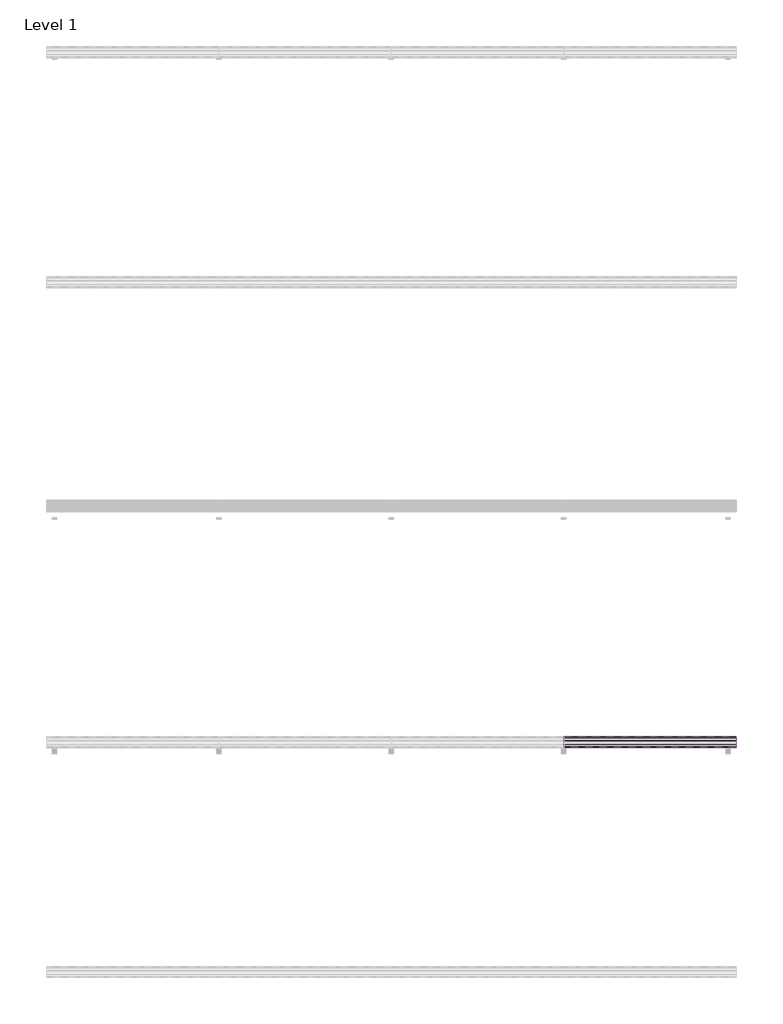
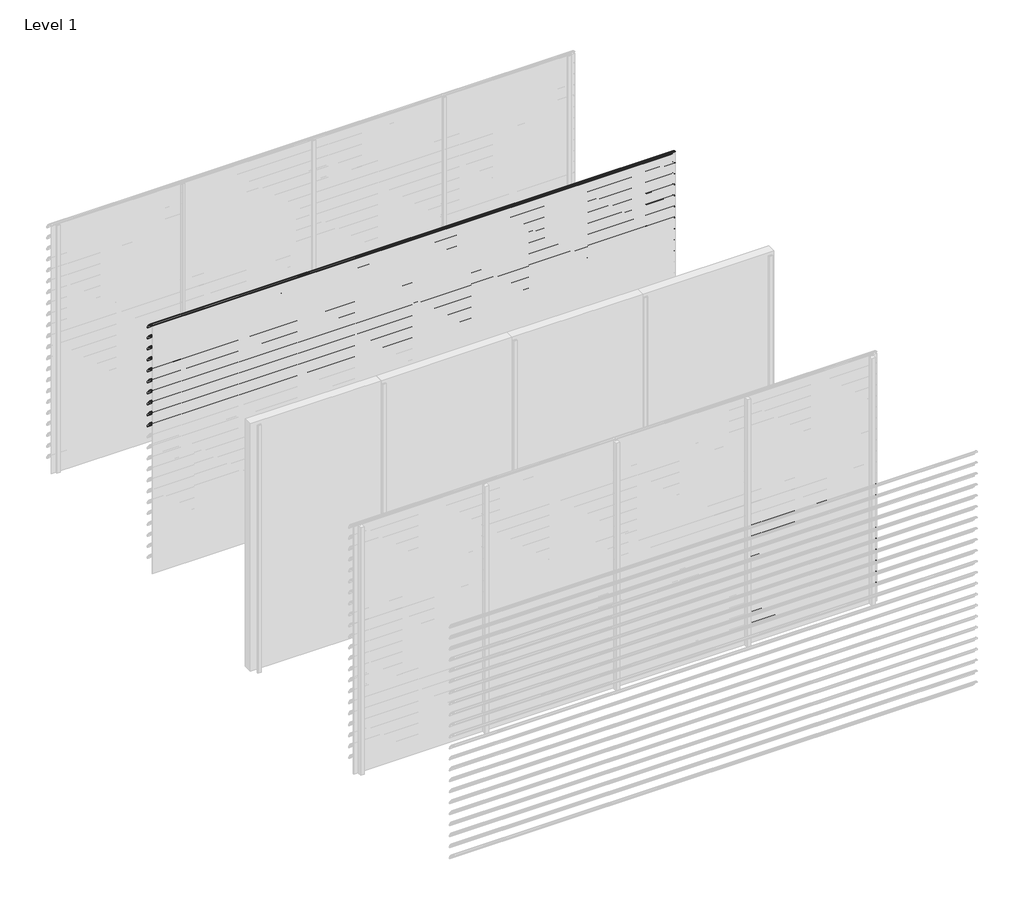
# One storey, part 30 of 57: 20 proxies.
"""IFC4 building model written with IfcOpenShell, lengths in millimetres."""

from ifc_helpers import new_model, si_unit, point, frame, frame_2d, origin, place, context, project, spatial, polyline, circle_curve, trimmed, segment, composite_curve, outline, extrude, element, save

model = new_model("IFC4")

# Units and contexts
model_context = context("Model", 3, world=origin())
ifc_project = project(units=[si_unit("LENGTHUNIT", "METRE", prefix="MILLI")], contexts=[model_context])

# Site, building, storey
site = spatial("IfcSite", under=ifc_project)
building = spatial("IfcBuilding", under=site)
storey = spatial("IfcBuildingStorey", under=building, Name="Level 1", Elevation=0.0)

# Proxies
placement = place(None, origin())
element("IfcBuildingElementProxy", 1, Name="Wall Sweeps", at=placement, inside=storey, context=model_context, shape_type="SweptSolid", body=[
    extrude(outline(composite_curve([segment(trimmed(circle_curve(frame_2d((-25993.7822526, 3016.4913792)), 4.2177474), [point((-25989.6985606, 3017.5462976))], [point((-25993.7822526, 3020.7091266))], False, "CARTESIAN"), True, "CONTINUOUS"), segment(trimmed(circle_curve(frame_2d((-26018.7150834, 2918.2536312)), 105.4456002), [point((-25993.7822526, 3020.7091266))], [point((-25971.7914298, 3012.6832099))], False, "CARTESIAN"), True, "CONTINUOUS"), segment(trimmed(circle_curve(frame_2d((-26061.7199745, 2864.0352476)), 173.7335887), [point((-25971.7914298, 3012.6832099))], [point((-25913.0720121, 2953.9637922))], False, "CARTESIAN"), True, "CONTINUOUS"), segment(trimmed(circle_curve(frame_2d((-26004.9297178, 2902.1860314)), 105.4456002), [point((-25913.0720121, 2953.9637922))], [point((-25903.6249616, 2931.4455765))], False, "CARTESIAN"), True, "CONTINUOUS"), segment(trimmed(circle_curve(frame_2d((-25907.809737, 2930.3307305)), 4.3307305), [point((-25903.6249616, 2931.4455765))], [point((-25909.0769196, 2926.189538))], False, "CARTESIAN"), True, "CONTINUOUS"), segment(polyline([(-25909.0769196, 2926.189538), (-25934.7401984, 2950.9722783)]), True, "CONTINUOUS"), segment(trimmed(circle_curve(frame_2d((-25931.3879574, 2953.2977626)), 4.079877), [point((-25934.7401984, 2950.9722783))], [point((-25930.7310597, 2957.3244091))], False, "CARTESIAN"), True, "CONTINUOUS"), segment(trimmed(circle_curve(frame_2d((-26014.6665585, 2935.2544323)), 86.7885467), [point((-25930.7310597, 2957.3244091))], [point((-25942.3028351, 2983.1683485))], True, "CARTESIAN"), True, "CONTINUOUS"), segment(polyline([(-25942.3028351, 2983.1683485), (-25940.7230099, 2985.9046861)]), True, "CONTINUOUS"), segment(trimmed(circle_curve(frame_2d((-26061.7199745, 2864.0352476)), 171.7335887), [point((-25940.7230099, 2985.9046861))], [point((-25972.7555872, 3010.9289618))], True, "CARTESIAN"), True, "CONTINUOUS"), segment(trimmed(circle_curve(frame_2d((-26018.7150834, 2918.2536312)), 103.4456002), [point((-25972.7555872, 3010.9289618))], [point((-25989.6985606, 3017.5462976))], True, "CARTESIAN"), True, "CONTINUOUS")], self_intersect=False)), frame((0.0, 0.0, 0.0), z_axis=(1.0, 0.0, 0.0), x_axis=(0.0, 1.0, 0.0)), (0.0, 0.0, 1.0), 6000.0),
])
element("IfcBuildingElementProxy", 2, Name="Wall Sweeps", at=placement, inside=storey, context=model_context, shape_type="SweptSolid", body=[
    extrude(outline(composite_curve([segment(trimmed(circle_curve(frame_2d((-25993.7822526, 2883.4913792)), 4.2177474), [point((-25989.6985606, 2884.5462976))], [point((-25993.7822526, 2887.7091266))], False, "CARTESIAN"), True, "CONTINUOUS"), segment(trimmed(circle_curve(frame_2d((-26018.7150834, 2785.2536312)), 105.4456002), [point((-25993.7822526, 2887.7091266))], [point((-25971.7914298, 2879.6832099))], False, "CARTESIAN"), True, "CONTINUOUS"), segment(trimmed(circle_curve(frame_2d((-26061.7199745, 2731.0352476)), 173.7335887), [point((-25971.7914298, 2879.6832099))], [point((-25913.0720121, 2820.9637922))], False, "CARTESIAN"), True, "CONTINUOUS"), segment(trimmed(circle_curve(frame_2d((-26004.9297178, 2769.1860314)), 105.4456002), [point((-25913.0720121, 2820.9637922))], [point((-25903.6249616, 2798.4455765))], False, "CARTESIAN"), True, "CONTINUOUS"), segment(trimmed(circle_curve(frame_2d((-25907.809737, 2797.3307305)), 4.3307305), [point((-25903.6249616, 2798.4455765))], [point((-25909.0769196, 2793.189538))], False, "CARTESIAN"), True, "CONTINUOUS"), segment(polyline([(-25909.0769196, 2793.189538), (-25934.7401984, 2817.9722783)]), True, "CONTINUOUS"), segment(trimmed(circle_curve(frame_2d((-25931.3879574, 2820.2977626)), 4.079877), [point((-25934.7401984, 2817.9722783))], [point((-25930.7310597, 2824.3244091))], False, "CARTESIAN"), True, "CONTINUOUS"), segment(trimmed(circle_curve(frame_2d((-26014.6665585, 2802.2544323)), 86.7885467), [point((-25930.7310597, 2824.3244091))], [point((-25942.3028351, 2850.1683485))], True, "CARTESIAN"), True, "CONTINUOUS"), segment(polyline([(-25942.3028351, 2850.1683485), (-25940.7230099, 2852.9046861)]), True, "CONTINUOUS"), segment(trimmed(circle_curve(frame_2d((-26061.7199745, 2731.0352476)), 171.7335887), [point((-25940.7230099, 2852.9046861))], [point((-25972.7555872, 2877.9289618))], True, "CARTESIAN"), True, "CONTINUOUS"), segment(trimmed(circle_curve(frame_2d((-26018.7150834, 2785.2536312)), 103.4456002), [point((-25972.7555872, 2877.9289618))], [point((-25989.6985606, 2884.5462976))], True, "CARTESIAN"), True, "CONTINUOUS")], self_intersect=False)), frame((0.0, 0.0, 0.0), z_axis=(1.0, 0.0, 0.0), x_axis=(0.0, 1.0, 0.0)), (0.0, 0.0, 1.0), 6000.0),
])
element("IfcBuildingElementProxy", 3, Name="Wall Sweeps", at=placement, inside=storey, context=model_context, shape_type="SweptSolid", body=[
    extrude(outline(composite_curve([segment(trimmed(circle_curve(frame_2d((-25993.7822526, 2750.4913792)), 4.2177474), [point((-25989.6985606, 2751.5462976))], [point((-25993.7822526, 2754.7091266))], False, "CARTESIAN"), True, "CONTINUOUS"), segment(trimmed(circle_curve(frame_2d((-26018.7150834, 2652.2536312)), 105.4456002), [point((-25993.7822526, 2754.7091266))], [point((-25971.7914298, 2746.6832099))], False, "CARTESIAN"), True, "CONTINUOUS"), segment(trimmed(circle_curve(frame_2d((-26061.7199745, 2598.0352476)), 173.7335887), [point((-25971.7914298, 2746.6832099))], [point((-25913.0720121, 2687.9637922))], False, "CARTESIAN"), True, "CONTINUOUS"), segment(trimmed(circle_curve(frame_2d((-26004.9297178, 2636.1860314)), 105.4456002), [point((-25913.0720121, 2687.9637922))], [point((-25903.6249616, 2665.4455765))], False, "CARTESIAN"), True, "CONTINUOUS"), segment(trimmed(circle_curve(frame_2d((-25907.809737, 2664.3307305)), 4.3307305), [point((-25903.6249616, 2665.4455765))], [point((-25909.0769196, 2660.189538))], False, "CARTESIAN"), True, "CONTINUOUS"), segment(polyline([(-25909.0769196, 2660.189538), (-25934.7401984, 2684.9722783)]), True, "CONTINUOUS"), segment(trimmed(circle_curve(frame_2d((-25931.3879574, 2687.2977626)), 4.079877), [point((-25934.7401984, 2684.9722783))], [point((-25930.7310597, 2691.3244091))], False, "CARTESIAN"), True, "CONTINUOUS"), segment(trimmed(circle_curve(frame_2d((-26014.6665585, 2669.2544323)), 86.7885467), [point((-25930.7310597, 2691.3244091))], [point((-25942.3028351, 2717.1683485))], True, "CARTESIAN"), True, "CONTINUOUS"), segment(polyline([(-25942.3028351, 2717.1683485), (-25940.7230099, 2719.9046861)]), True, "CONTINUOUS"), segment(trimmed(circle_curve(frame_2d((-26061.7199745, 2598.0352476)), 171.7335887), [point((-25940.7230099, 2719.9046861))], [point((-25972.7555872, 2744.9289618))], True, "CARTESIAN"), True, "CONTINUOUS"), segment(trimmed(circle_curve(frame_2d((-26018.7150834, 2652.2536312)), 103.4456002), [point((-25972.7555872, 2744.9289618))], [point((-25989.6985606, 2751.5462976))], True, "CARTESIAN"), True, "CONTINUOUS")], self_intersect=False)), frame((0.0, 0.0, 0.0), z_axis=(1.0, 0.0, 0.0), x_axis=(0.0, 1.0, 0.0)), (0.0, 0.0, 1.0), 6000.0),
])
element("IfcBuildingElementProxy", 4, Name="Wall Sweeps", at=placement, inside=storey, context=model_context, shape_type="SweptSolid", body=[
    extrude(outline(composite_curve([segment(trimmed(circle_curve(frame_2d((-25993.7822526, 2617.4913792)), 4.2177474), [point((-25989.6985606, 2618.5462976))], [point((-25993.7822526, 2621.7091266))], False, "CARTESIAN"), True, "CONTINUOUS"), segment(trimmed(circle_curve(frame_2d((-26018.7150834, 2519.2536312)), 105.4456002), [point((-25993.7822526, 2621.7091266))], [point((-25971.7914298, 2613.6832099))], False, "CARTESIAN"), True, "CONTINUOUS"), segment(trimmed(circle_curve(frame_2d((-26061.7199745, 2465.0352476)), 173.7335887), [point((-25971.7914298, 2613.6832099))], [point((-25913.0720121, 2554.9637922))], False, "CARTESIAN"), True, "CONTINUOUS"), segment(trimmed(circle_curve(frame_2d((-26004.9297178, 2503.1860314)), 105.4456002), [point((-25913.0720121, 2554.9637922))], [point((-25903.6249616, 2532.4455765))], False, "CARTESIAN"), True, "CONTINUOUS"), segment(trimmed(circle_curve(frame_2d((-25907.809737, 2531.3307305)), 4.3307305), [point((-25903.6249616, 2532.4455765))], [point((-25909.0769196, 2527.189538))], False, "CARTESIAN"), True, "CONTINUOUS"), segment(polyline([(-25909.0769196, 2527.189538), (-25934.7401984, 2551.9722783)]), True, "CONTINUOUS"), segment(trimmed(circle_curve(frame_2d((-25931.3879574, 2554.2977626)), 4.079877), [point((-25934.7401984, 2551.9722783))], [point((-25930.7310597, 2558.3244091))], False, "CARTESIAN"), True, "CONTINUOUS"), segment(trimmed(circle_curve(frame_2d((-26014.6665585, 2536.2544323)), 86.7885467), [point((-25930.7310597, 2558.3244091))], [point((-25942.3028351, 2584.1683485))], True, "CARTESIAN"), True, "CONTINUOUS"), segment(polyline([(-25942.3028351, 2584.1683485), (-25940.7230099, 2586.9046861)]), True, "CONTINUOUS"), segment(trimmed(circle_curve(frame_2d((-26061.7199745, 2465.0352476)), 171.7335887), [point((-25940.7230099, 2586.9046861))], [point((-25972.7555872, 2611.9289618))], True, "CARTESIAN"), True, "CONTINUOUS"), segment(trimmed(circle_curve(frame_2d((-26018.7150834, 2519.2536312)), 103.4456002), [point((-25972.7555872, 2611.9289618))], [point((-25989.6985606, 2618.5462976))], True, "CARTESIAN"), True, "CONTINUOUS")], self_intersect=False)), frame((0.0, 0.0, 0.0), z_axis=(1.0, 0.0, 0.0), x_axis=(0.0, 1.0, 0.0)), (0.0, 0.0, 1.0), 6000.0),
])
element("IfcBuildingElementProxy", 5, Name="Wall Sweeps", at=placement, inside=storey, context=model_context, shape_type="SweptSolid", body=[
    extrude(outline(composite_curve([segment(trimmed(circle_curve(frame_2d((-25993.7822526, 2484.4913792)), 4.2177474), [point((-25989.6985606, 2485.5462976))], [point((-25993.7822526, 2488.7091266))], False, "CARTESIAN"), True, "CONTINUOUS"), segment(trimmed(circle_curve(frame_2d((-26018.7150834, 2386.2536312)), 105.4456002), [point((-25993.7822526, 2488.7091266))], [point((-25971.7914298, 2480.6832099))], False, "CARTESIAN"), True, "CONTINUOUS"), segment(trimmed(circle_curve(frame_2d((-26061.7199745, 2332.0352476)), 173.7335887), [point((-25971.7914298, 2480.6832099))], [point((-25913.0720121, 2421.9637922))], False, "CARTESIAN"), True, "CONTINUOUS"), segment(trimmed(circle_curve(frame_2d((-26004.9297178, 2370.1860314)), 105.4456002), [point((-25913.0720121, 2421.9637922))], [point((-25903.6249616, 2399.4455765))], False, "CARTESIAN"), True, "CONTINUOUS"), segment(trimmed(circle_curve(frame_2d((-25907.809737, 2398.3307305)), 4.3307305), [point((-25903.6249616, 2399.4455765))], [point((-25909.0769196, 2394.189538))], False, "CARTESIAN"), True, "CONTINUOUS"), segment(polyline([(-25909.0769196, 2394.189538), (-25934.7401984, 2418.9722783)]), True, "CONTINUOUS"), segment(trimmed(circle_curve(frame_2d((-25931.3879574, 2421.2977626)), 4.079877), [point((-25934.7401984, 2418.9722783))], [point((-25930.7310597, 2425.3244091))], False, "CARTESIAN"), True, "CONTINUOUS"), segment(trimmed(circle_curve(frame_2d((-26014.6665585, 2403.2544323)), 86.7885467), [point((-25930.7310597, 2425.3244091))], [point((-25942.3028351, 2451.1683485))], True, "CARTESIAN"), True, "CONTINUOUS"), segment(polyline([(-25942.3028351, 2451.1683485), (-25940.7230099, 2453.9046861)]), True, "CONTINUOUS"), segment(trimmed(circle_curve(frame_2d((-26061.7199745, 2332.0352476)), 171.7335887), [point((-25940.7230099, 2453.9046861))], [point((-25972.7555872, 2478.9289618))], True, "CARTESIAN"), True, "CONTINUOUS"), segment(trimmed(circle_curve(frame_2d((-26018.7150834, 2386.2536312)), 103.4456002), [point((-25972.7555872, 2478.9289618))], [point((-25989.6985606, 2485.5462976))], True, "CARTESIAN"), True, "CONTINUOUS")], self_intersect=False)), frame((0.0, 0.0, 0.0), z_axis=(1.0, 0.0, 0.0), x_axis=(0.0, 1.0, 0.0)), (0.0, 0.0, 1.0), 6000.0),
])
element("IfcBuildingElementProxy", 6, Name="Wall Sweeps", at=placement, inside=storey, context=model_context, shape_type="SweptSolid", body=[
    extrude(outline(composite_curve([segment(trimmed(circle_curve(frame_2d((-25993.7822526, 2351.4913792)), 4.2177474), [point((-25989.6985606, 2352.5462976))], [point((-25993.7822526, 2355.7091266))], False, "CARTESIAN"), True, "CONTINUOUS"), segment(trimmed(circle_curve(frame_2d((-26018.7150834, 2253.2536312)), 105.4456002), [point((-25993.7822526, 2355.7091266))], [point((-25971.7914298, 2347.6832099))], False, "CARTESIAN"), True, "CONTINUOUS"), segment(trimmed(circle_curve(frame_2d((-26061.7199745, 2199.0352476)), 173.7335887), [point((-25971.7914298, 2347.6832099))], [point((-25913.0720121, 2288.9637922))], False, "CARTESIAN"), True, "CONTINUOUS"), segment(trimmed(circle_curve(frame_2d((-26004.9297178, 2237.1860314)), 105.4456002), [point((-25913.0720121, 2288.9637922))], [point((-25903.6249616, 2266.4455765))], False, "CARTESIAN"), True, "CONTINUOUS"), segment(trimmed(circle_curve(frame_2d((-25907.809737, 2265.3307305)), 4.3307305), [point((-25903.6249616, 2266.4455765))], [point((-25909.0769196, 2261.189538))], False, "CARTESIAN"), True, "CONTINUOUS"), segment(polyline([(-25909.0769196, 2261.189538), (-25934.7401984, 2285.9722783)]), True, "CONTINUOUS"), segment(trimmed(circle_curve(frame_2d((-25931.3879574, 2288.2977626)), 4.079877), [point((-25934.7401984, 2285.9722783))], [point((-25930.7310597, 2292.3244091))], False, "CARTESIAN"), True, "CONTINUOUS"), segment(trimmed(circle_curve(frame_2d((-26014.6665585, 2270.2544323)), 86.7885467), [point((-25930.7310597, 2292.3244091))], [point((-25942.3028351, 2318.1683485))], True, "CARTESIAN"), True, "CONTINUOUS"), segment(polyline([(-25942.3028351, 2318.1683485), (-25940.7230099, 2320.9046861)]), True, "CONTINUOUS"), segment(trimmed(circle_curve(frame_2d((-26061.7199745, 2199.0352476)), 171.7335887), [point((-25940.7230099, 2320.9046861))], [point((-25972.7555872, 2345.9289618))], True, "CARTESIAN"), True, "CONTINUOUS"), segment(trimmed(circle_curve(frame_2d((-26018.7150834, 2253.2536312)), 103.4456002), [point((-25972.7555872, 2345.9289618))], [point((-25989.6985606, 2352.5462976))], True, "CARTESIAN"), True, "CONTINUOUS")], self_intersect=False)), frame((0.0, 0.0, 0.0), z_axis=(1.0, 0.0, 0.0), x_axis=(0.0, 1.0, 0.0)), (0.0, 0.0, 1.0), 6000.0),
])
element("IfcBuildingElementProxy", 7, Name="Wall Sweeps", at=placement, inside=storey, context=model_context, shape_type="SweptSolid", body=[
    extrude(outline(composite_curve([segment(trimmed(circle_curve(frame_2d((-25993.7822526, 2218.4913792)), 4.2177474), [point((-25989.6985606, 2219.5462976))], [point((-25993.7822526, 2222.7091266))], False, "CARTESIAN"), True, "CONTINUOUS"), segment(trimmed(circle_curve(frame_2d((-26018.7150834, 2120.2536312)), 105.4456002), [point((-25993.7822526, 2222.7091266))], [point((-25971.7914298, 2214.6832099))], False, "CARTESIAN"), True, "CONTINUOUS"), segment(trimmed(circle_curve(frame_2d((-26061.7199745, 2066.0352476)), 173.7335887), [point((-25971.7914298, 2214.6832099))], [point((-25913.0720121, 2155.9637922))], False, "CARTESIAN"), True, "CONTINUOUS"), segment(trimmed(circle_curve(frame_2d((-26004.9297178, 2104.1860314)), 105.4456002), [point((-25913.0720121, 2155.9637922))], [point((-25903.6249616, 2133.4455765))], False, "CARTESIAN"), True, "CONTINUOUS"), segment(trimmed(circle_curve(frame_2d((-25907.809737, 2132.3307305)), 4.3307305), [point((-25903.6249616, 2133.4455765))], [point((-25909.0769196, 2128.189538))], False, "CARTESIAN"), True, "CONTINUOUS"), segment(polyline([(-25909.0769196, 2128.189538), (-25934.7401984, 2152.9722783)]), True, "CONTINUOUS"), segment(trimmed(circle_curve(frame_2d((-25931.3879574, 2155.2977626)), 4.079877), [point((-25934.7401984, 2152.9722783))], [point((-25930.7310597, 2159.3244091))], False, "CARTESIAN"), True, "CONTINUOUS"), segment(trimmed(circle_curve(frame_2d((-26014.6665585, 2137.2544323)), 86.7885467), [point((-25930.7310597, 2159.3244091))], [point((-25942.3028351, 2185.1683485))], True, "CARTESIAN"), True, "CONTINUOUS"), segment(polyline([(-25942.3028351, 2185.1683485), (-25940.7230099, 2187.9046861)]), True, "CONTINUOUS"), segment(trimmed(circle_curve(frame_2d((-26061.7199745, 2066.0352476)), 171.7335887), [point((-25940.7230099, 2187.9046861))], [point((-25972.7555872, 2212.9289618))], True, "CARTESIAN"), True, "CONTINUOUS"), segment(trimmed(circle_curve(frame_2d((-26018.7150834, 2120.2536312)), 103.4456002), [point((-25972.7555872, 2212.9289618))], [point((-25989.6985606, 2219.5462976))], True, "CARTESIAN"), True, "CONTINUOUS")], self_intersect=False)), frame((0.0, 0.0, 0.0), z_axis=(1.0, 0.0, 0.0), x_axis=(0.0, 1.0, 0.0)), (0.0, 0.0, 1.0), 6000.0),
])
element("IfcBuildingElementProxy", 8, Name="Wall Sweeps", at=placement, inside=storey, context=model_context, shape_type="SweptSolid", body=[
    extrude(outline(composite_curve([segment(trimmed(circle_curve(frame_2d((-25993.7822526, 2085.4913792)), 4.2177474), [point((-25989.6985606, 2086.5462976))], [point((-25993.7822526, 2089.7091266))], False, "CARTESIAN"), True, "CONTINUOUS"), segment(trimmed(circle_curve(frame_2d((-26018.7150834, 1987.2536312)), 105.4456002), [point((-25993.7822526, 2089.7091266))], [point((-25971.7914298, 2081.6832099))], False, "CARTESIAN"), True, "CONTINUOUS"), segment(trimmed(circle_curve(frame_2d((-26061.7199745, 1933.0352476)), 173.7335887), [point((-25971.7914298, 2081.6832099))], [point((-25913.0720121, 2022.9637922))], False, "CARTESIAN"), True, "CONTINUOUS"), segment(trimmed(circle_curve(frame_2d((-26004.9297178, 1971.1860314)), 105.4456002), [point((-25913.0720121, 2022.9637922))], [point((-25903.6249616, 2000.4455765))], False, "CARTESIAN"), True, "CONTINUOUS"), segment(trimmed(circle_curve(frame_2d((-25907.809737, 1999.3307305)), 4.3307305), [point((-25903.6249616, 2000.4455765))], [point((-25909.0769196, 1995.189538))], False, "CARTESIAN"), True, "CONTINUOUS"), segment(polyline([(-25909.0769196, 1995.189538), (-25934.7401984, 2019.9722783)]), True, "CONTINUOUS"), segment(trimmed(circle_curve(frame_2d((-25931.3879574, 2022.2977626)), 4.079877), [point((-25934.7401984, 2019.9722783))], [point((-25930.7310597, 2026.3244091))], False, "CARTESIAN"), True, "CONTINUOUS"), segment(trimmed(circle_curve(frame_2d((-26014.6665585, 2004.2544323)), 86.7885467), [point((-25930.7310597, 2026.3244091))], [point((-25942.3028351, 2052.1683485))], True, "CARTESIAN"), True, "CONTINUOUS"), segment(polyline([(-25942.3028351, 2052.1683485), (-25940.7230099, 2054.9046861)]), True, "CONTINUOUS"), segment(trimmed(circle_curve(frame_2d((-26061.7199745, 1933.0352476)), 171.7335887), [point((-25940.7230099, 2054.9046861))], [point((-25972.7555872, 2079.9289618))], True, "CARTESIAN"), True, "CONTINUOUS"), segment(trimmed(circle_curve(frame_2d((-26018.7150834, 1987.2536312)), 103.4456002), [point((-25972.7555872, 2079.9289618))], [point((-25989.6985606, 2086.5462976))], True, "CARTESIAN"), True, "CONTINUOUS")], self_intersect=False)), frame((0.0, 0.0, 0.0), z_axis=(1.0, 0.0, 0.0), x_axis=(0.0, 1.0, 0.0)), (0.0, 0.0, 1.0), 6000.0),
])
element("IfcBuildingElementProxy", 9, Name="Wall Sweeps", at=placement, inside=storey, context=model_context, shape_type="SweptSolid", body=[
    extrude(outline(composite_curve([segment(trimmed(circle_curve(frame_2d((-25993.7822526, 1952.4913792)), 4.2177474), [point((-25989.6985606, 1953.5462976))], [point((-25993.7822526, 1956.7091266))], False, "CARTESIAN"), True, "CONTINUOUS"), segment(trimmed(circle_curve(frame_2d((-26018.7150834, 1854.2536312)), 105.4456002), [point((-25993.7822526, 1956.7091266))], [point((-25971.7914298, 1948.6832099))], False, "CARTESIAN"), True, "CONTINUOUS"), segment(trimmed(circle_curve(frame_2d((-26061.7199745, 1800.0352476)), 173.7335887), [point((-25971.7914298, 1948.6832099))], [point((-25913.0720121, 1889.9637922))], False, "CARTESIAN"), True, "CONTINUOUS"), segment(trimmed(circle_curve(frame_2d((-26004.9297178, 1838.1860314)), 105.4456002), [point((-25913.0720121, 1889.9637922))], [point((-25903.6249616, 1867.4455765))], False, "CARTESIAN"), True, "CONTINUOUS"), segment(trimmed(circle_curve(frame_2d((-25907.809737, 1866.3307305)), 4.3307305), [point((-25903.6249616, 1867.4455765))], [point((-25909.0769196, 1862.189538))], False, "CARTESIAN"), True, "CONTINUOUS"), segment(polyline([(-25909.0769196, 1862.189538), (-25934.7401984, 1886.9722783)]), True, "CONTINUOUS"), segment(trimmed(circle_curve(frame_2d((-25931.3879574, 1889.2977626)), 4.079877), [point((-25934.7401984, 1886.9722783))], [point((-25930.7310597, 1893.3244091))], False, "CARTESIAN"), True, "CONTINUOUS"), segment(trimmed(circle_curve(frame_2d((-26014.6665585, 1871.2544323)), 86.7885467), [point((-25930.7310597, 1893.3244091))], [point((-25942.3028351, 1919.1683485))], True, "CARTESIAN"), True, "CONTINUOUS"), segment(polyline([(-25942.3028351, 1919.1683485), (-25940.7230099, 1921.9046861)]), True, "CONTINUOUS"), segment(trimmed(circle_curve(frame_2d((-26061.7199745, 1800.0352476)), 171.7335887), [point((-25940.7230099, 1921.9046861))], [point((-25972.7555872, 1946.9289618))], True, "CARTESIAN"), True, "CONTINUOUS"), segment(trimmed(circle_curve(frame_2d((-26018.7150834, 1854.2536312)), 103.4456002), [point((-25972.7555872, 1946.9289618))], [point((-25989.6985606, 1953.5462976))], True, "CARTESIAN"), True, "CONTINUOUS")], self_intersect=False)), frame((0.0, 0.0, 0.0), z_axis=(1.0, 0.0, 0.0), x_axis=(0.0, 1.0, 0.0)), (0.0, 0.0, 1.0), 6000.0),
])
element("IfcBuildingElementProxy", 10, Name="Wall Sweeps", at=placement, inside=storey, context=model_context, shape_type="SweptSolid", body=[
    extrude(outline(composite_curve([segment(trimmed(circle_curve(frame_2d((-25993.7822526, 1819.4913792)), 4.2177474), [point((-25989.6985606, 1820.5462976))], [point((-25993.7822526, 1823.7091266))], False, "CARTESIAN"), True, "CONTINUOUS"), segment(trimmed(circle_curve(frame_2d((-26018.7150834, 1721.2536312)), 105.4456002), [point((-25993.7822526, 1823.7091266))], [point((-25971.7914298, 1815.6832099))], False, "CARTESIAN"), True, "CONTINUOUS"), segment(trimmed(circle_curve(frame_2d((-26061.7199745, 1667.0352476)), 173.7335887), [point((-25971.7914298, 1815.6832099))], [point((-25913.0720121, 1756.9637922))], False, "CARTESIAN"), True, "CONTINUOUS"), segment(trimmed(circle_curve(frame_2d((-26004.9297178, 1705.1860314)), 105.4456002), [point((-25913.0720121, 1756.9637922))], [point((-25903.6249616, 1734.4455765))], False, "CARTESIAN"), True, "CONTINUOUS"), segment(trimmed(circle_curve(frame_2d((-25907.809737, 1733.3307305)), 4.3307305), [point((-25903.6249616, 1734.4455765))], [point((-25909.0769196, 1729.189538))], False, "CARTESIAN"), True, "CONTINUOUS"), segment(polyline([(-25909.0769196, 1729.189538), (-25934.7401984, 1753.9722783)]), True, "CONTINUOUS"), segment(trimmed(circle_curve(frame_2d((-25931.3879574, 1756.2977626)), 4.079877), [point((-25934.7401984, 1753.9722783))], [point((-25930.7310597, 1760.3244091))], False, "CARTESIAN"), True, "CONTINUOUS"), segment(trimmed(circle_curve(frame_2d((-26014.6665585, 1738.2544323)), 86.7885467), [point((-25930.7310597, 1760.3244091))], [point((-25942.3028351, 1786.1683485))], True, "CARTESIAN"), True, "CONTINUOUS"), segment(polyline([(-25942.3028351, 1786.1683485), (-25940.7230099, 1788.9046861)]), True, "CONTINUOUS"), segment(trimmed(circle_curve(frame_2d((-26061.7199745, 1667.0352476)), 171.7335887), [point((-25940.7230099, 1788.9046861))], [point((-25972.7555872, 1813.9289618))], True, "CARTESIAN"), True, "CONTINUOUS"), segment(trimmed(circle_curve(frame_2d((-26018.7150834, 1721.2536312)), 103.4456002), [point((-25972.7555872, 1813.9289618))], [point((-25989.6985606, 1820.5462976))], True, "CARTESIAN"), True, "CONTINUOUS")], self_intersect=False)), frame((0.0, 0.0, 0.0), z_axis=(1.0, 0.0, 0.0), x_axis=(0.0, 1.0, 0.0)), (0.0, 0.0, 1.0), 6000.0),
])
element("IfcBuildingElementProxy", 11, Name="Wall Sweeps", at=placement, inside=storey, context=model_context, shape_type="SweptSolid", body=[
    extrude(outline(composite_curve([segment(trimmed(circle_curve(frame_2d((-29993.7822526, 1420.4913792)), 4.2177474), [point((-29989.6985606, 1421.5462976))], [point((-29993.7822526, 1424.7091266))], False, "CARTESIAN"), True, "CONTINUOUS"), segment(trimmed(circle_curve(frame_2d((-30018.7150834, 1322.2536312)), 105.4456002), [point((-29993.7822526, 1424.7091266))], [point((-29971.7914298, 1416.6832099))], False, "CARTESIAN"), True, "CONTINUOUS"), segment(trimmed(circle_curve(frame_2d((-30061.7199745, 1268.0352476)), 173.7335887), [point((-29971.7914298, 1416.6832099))], [point((-29913.0720121, 1357.9637922))], False, "CARTESIAN"), True, "CONTINUOUS"), segment(trimmed(circle_curve(frame_2d((-30004.9297178, 1306.1860314)), 105.4456002), [point((-29913.0720121, 1357.9637922))], [point((-29903.6249616, 1335.4455765))], False, "CARTESIAN"), True, "CONTINUOUS"), segment(trimmed(circle_curve(frame_2d((-29907.809737, 1334.3307305)), 4.3307305), [point((-29903.6249616, 1335.4455765))], [point((-29909.0769196, 1330.189538))], False, "CARTESIAN"), True, "CONTINUOUS"), segment(polyline([(-29909.0769196, 1330.189538), (-29934.7401984, 1354.9722783)]), True, "CONTINUOUS"), segment(trimmed(circle_curve(frame_2d((-29931.3879574, 1357.2977626)), 4.079877), [point((-29934.7401984, 1354.9722783))], [point((-29930.7310597, 1361.3244091))], False, "CARTESIAN"), True, "CONTINUOUS"), segment(trimmed(circle_curve(frame_2d((-30014.6665585, 1339.2544323)), 86.7885467), [point((-29930.7310597, 1361.3244091))], [point((-29942.3028351, 1387.1683485))], True, "CARTESIAN"), True, "CONTINUOUS"), segment(polyline([(-29942.3028351, 1387.1683485), (-29940.7230099, 1389.9046861)]), True, "CONTINUOUS"), segment(trimmed(circle_curve(frame_2d((-30061.7199745, 1268.0352476)), 171.7335887), [point((-29940.7230099, 1389.9046861))], [point((-29972.7555872, 1414.9289618))], True, "CARTESIAN"), True, "CONTINUOUS"), segment(trimmed(circle_curve(frame_2d((-30018.7150834, 1322.2536312)), 103.4456002), [point((-29972.7555872, 1414.9289618))], [point((-29989.6985606, 1421.5462976))], True, "CARTESIAN"), True, "CONTINUOUS")], self_intersect=False)), frame((4500.0, 0.0, 0.0), z_axis=(1.0, 0.0, 0.0), x_axis=(0.0, 1.0, 0.0)), (0.0, 0.0, 1.0), 1500.0),
])
element("IfcBuildingElementProxy", 12, Name="Wall Sweeps", at=placement, inside=storey, context=model_context, shape_type="SweptSolid", body=[
    extrude(outline(composite_curve([segment(trimmed(circle_curve(frame_2d((-29993.7822526, 1287.4913792)), 4.2177474), [point((-29989.6985606, 1288.5462976))], [point((-29993.7822526, 1291.7091266))], False, "CARTESIAN"), True, "CONTINUOUS"), segment(trimmed(circle_curve(frame_2d((-30018.7150834, 1189.2536312)), 105.4456002), [point((-29993.7822526, 1291.7091266))], [point((-29971.7914298, 1283.6832099))], False, "CARTESIAN"), True, "CONTINUOUS"), segment(trimmed(circle_curve(frame_2d((-30061.7199745, 1135.0352476)), 173.7335887), [point((-29971.7914298, 1283.6832099))], [point((-29913.0720121, 1224.9637922))], False, "CARTESIAN"), True, "CONTINUOUS"), segment(trimmed(circle_curve(frame_2d((-30004.9297178, 1173.1860314)), 105.4456002), [point((-29913.0720121, 1224.9637922))], [point((-29903.6249616, 1202.4455765))], False, "CARTESIAN"), True, "CONTINUOUS"), segment(trimmed(circle_curve(frame_2d((-29907.809737, 1201.3307305)), 4.3307305), [point((-29903.6249616, 1202.4455765))], [point((-29909.0769196, 1197.189538))], False, "CARTESIAN"), True, "CONTINUOUS"), segment(polyline([(-29909.0769196, 1197.189538), (-29934.7401984, 1221.9722783)]), True, "CONTINUOUS"), segment(trimmed(circle_curve(frame_2d((-29931.3879574, 1224.2977626)), 4.079877), [point((-29934.7401984, 1221.9722783))], [point((-29930.7310597, 1228.3244091))], False, "CARTESIAN"), True, "CONTINUOUS"), segment(trimmed(circle_curve(frame_2d((-30014.6665585, 1206.2544323)), 86.7885467), [point((-29930.7310597, 1228.3244091))], [point((-29942.3028351, 1254.1683485))], True, "CARTESIAN"), True, "CONTINUOUS"), segment(polyline([(-29942.3028351, 1254.1683485), (-29940.7230099, 1256.9046861)]), True, "CONTINUOUS"), segment(trimmed(circle_curve(frame_2d((-30061.7199745, 1135.0352476)), 171.7335887), [point((-29940.7230099, 1256.9046861))], [point((-29972.7555872, 1281.9289618))], True, "CARTESIAN"), True, "CONTINUOUS"), segment(trimmed(circle_curve(frame_2d((-30018.7150834, 1189.2536312)), 103.4456002), [point((-29972.7555872, 1281.9289618))], [point((-29989.6985606, 1288.5462976))], True, "CARTESIAN"), True, "CONTINUOUS")], self_intersect=False)), frame((4500.0, 0.0, 0.0), z_axis=(1.0, 0.0, 0.0), x_axis=(0.0, 1.0, 0.0)), (0.0, 0.0, 1.0), 1500.0),
])
element("IfcBuildingElementProxy", 13, Name="Wall Sweeps", at=placement, inside=storey, context=model_context, shape_type="SweptSolid", body=[
    extrude(outline(composite_curve([segment(trimmed(circle_curve(frame_2d((-29993.7822526, 1154.4913792)), 4.2177474), [point((-29989.6985606, 1155.5462976))], [point((-29993.7822526, 1158.7091266))], False, "CARTESIAN"), True, "CONTINUOUS"), segment(trimmed(circle_curve(frame_2d((-30018.7150834, 1056.2536312)), 105.4456002), [point((-29993.7822526, 1158.7091266))], [point((-29971.7914298, 1150.6832099))], False, "CARTESIAN"), True, "CONTINUOUS"), segment(trimmed(circle_curve(frame_2d((-30061.7199745, 1002.0352476)), 173.7335887), [point((-29971.7914298, 1150.6832099))], [point((-29913.0720121, 1091.9637922))], False, "CARTESIAN"), True, "CONTINUOUS"), segment(trimmed(circle_curve(frame_2d((-30004.9297178, 1040.1860314)), 105.4456002), [point((-29913.0720121, 1091.9637922))], [point((-29903.6249616, 1069.4455765))], False, "CARTESIAN"), True, "CONTINUOUS"), segment(trimmed(circle_curve(frame_2d((-29907.809737, 1068.3307305)), 4.3307305), [point((-29903.6249616, 1069.4455765))], [point((-29909.0769196, 1064.189538))], False, "CARTESIAN"), True, "CONTINUOUS"), segment(polyline([(-29909.0769196, 1064.189538), (-29934.7401984, 1088.9722783)]), True, "CONTINUOUS"), segment(trimmed(circle_curve(frame_2d((-29931.3879574, 1091.2977626)), 4.079877), [point((-29934.7401984, 1088.9722783))], [point((-29930.7310597, 1095.3244091))], False, "CARTESIAN"), True, "CONTINUOUS"), segment(trimmed(circle_curve(frame_2d((-30014.6665585, 1073.2544323)), 86.7885467), [point((-29930.7310597, 1095.3244091))], [point((-29942.3028351, 1121.1683485))], True, "CARTESIAN"), True, "CONTINUOUS"), segment(polyline([(-29942.3028351, 1121.1683485), (-29940.7230099, 1123.9046861)]), True, "CONTINUOUS"), segment(trimmed(circle_curve(frame_2d((-30061.7199745, 1002.0352476)), 171.7335887), [point((-29940.7230099, 1123.9046861))], [point((-29972.7555872, 1148.9289618))], True, "CARTESIAN"), True, "CONTINUOUS"), segment(trimmed(circle_curve(frame_2d((-30018.7150834, 1056.2536312)), 103.4456002), [point((-29972.7555872, 1148.9289618))], [point((-29989.6985606, 1155.5462976))], True, "CARTESIAN"), True, "CONTINUOUS")], self_intersect=False)), frame((4500.0, 0.0, 0.0), z_axis=(1.0, 0.0, 0.0), x_axis=(0.0, 1.0, 0.0)), (0.0, 0.0, 1.0), 1500.0),
])
element("IfcBuildingElementProxy", 14, Name="Wall Sweeps", at=placement, inside=storey, context=model_context, shape_type="SweptSolid", body=[
    extrude(outline(composite_curve([segment(trimmed(circle_curve(frame_2d((-29993.7822526, 1021.4913792)), 4.2177474), [point((-29989.6985606, 1022.5462976))], [point((-29993.7822526, 1025.7091266))], False, "CARTESIAN"), True, "CONTINUOUS"), segment(trimmed(circle_curve(frame_2d((-30018.7150834, 923.2536312)), 105.4456002), [point((-29993.7822526, 1025.7091266))], [point((-29971.7914298, 1017.6832099))], False, "CARTESIAN"), True, "CONTINUOUS"), segment(trimmed(circle_curve(frame_2d((-30061.7199745, 869.0352476)), 173.7335887), [point((-29971.7914298, 1017.6832099))], [point((-29913.0720121, 958.9637922))], False, "CARTESIAN"), True, "CONTINUOUS"), segment(trimmed(circle_curve(frame_2d((-30004.9297178, 907.1860314)), 105.4456002), [point((-29913.0720121, 958.9637922))], [point((-29903.6249616, 936.4455765))], False, "CARTESIAN"), True, "CONTINUOUS"), segment(trimmed(circle_curve(frame_2d((-29907.809737, 935.3307305)), 4.3307305), [point((-29903.6249616, 936.4455765))], [point((-29909.0769196, 931.189538))], False, "CARTESIAN"), True, "CONTINUOUS"), segment(polyline([(-29909.0769196, 931.189538), (-29934.7401984, 955.9722783)]), True, "CONTINUOUS"), segment(trimmed(circle_curve(frame_2d((-29931.3879574, 958.2977626)), 4.079877), [point((-29934.7401984, 955.9722783))], [point((-29930.7310597, 962.3244091))], False, "CARTESIAN"), True, "CONTINUOUS"), segment(trimmed(circle_curve(frame_2d((-30014.6665585, 940.2544323)), 86.7885467), [point((-29930.7310597, 962.3244091))], [point((-29942.3028351, 988.1683485))], True, "CARTESIAN"), True, "CONTINUOUS"), segment(polyline([(-29942.3028351, 988.1683485), (-29940.7230099, 990.9046861)]), True, "CONTINUOUS"), segment(trimmed(circle_curve(frame_2d((-30061.7199745, 869.0352476)), 171.7335887), [point((-29940.7230099, 990.9046861))], [point((-29972.7555872, 1015.9289618))], True, "CARTESIAN"), True, "CONTINUOUS"), segment(trimmed(circle_curve(frame_2d((-30018.7150834, 923.2536312)), 103.4456002), [point((-29972.7555872, 1015.9289618))], [point((-29989.6985606, 1022.5462976))], True, "CARTESIAN"), True, "CONTINUOUS")], self_intersect=False)), frame((4500.0, 0.0, 0.0), z_axis=(1.0, 0.0, 0.0), x_axis=(0.0, 1.0, 0.0)), (0.0, 0.0, 1.0), 1500.0),
])
element("IfcBuildingElementProxy", 15, Name="Wall Sweeps", at=placement, inside=storey, context=model_context, shape_type="SweptSolid", body=[
    extrude(outline(composite_curve([segment(trimmed(circle_curve(frame_2d((-29993.7822526, 888.4913792)), 4.2177474), [point((-29989.6985606, 889.5462976))], [point((-29993.7822526, 892.7091266))], False, "CARTESIAN"), True, "CONTINUOUS"), segment(trimmed(circle_curve(frame_2d((-30018.7150834, 790.2536312)), 105.4456002), [point((-29993.7822526, 892.7091266))], [point((-29971.7914298, 884.6832099))], False, "CARTESIAN"), True, "CONTINUOUS"), segment(trimmed(circle_curve(frame_2d((-30061.7199745, 736.0352476)), 173.7335887), [point((-29971.7914298, 884.6832099))], [point((-29913.0720121, 825.9637922))], False, "CARTESIAN"), True, "CONTINUOUS"), segment(trimmed(circle_curve(frame_2d((-30004.9297178, 774.1860314)), 105.4456002), [point((-29913.0720121, 825.9637922))], [point((-29903.6249616, 803.4455765))], False, "CARTESIAN"), True, "CONTINUOUS"), segment(trimmed(circle_curve(frame_2d((-29907.809737, 802.3307305)), 4.3307305), [point((-29903.6249616, 803.4455765))], [point((-29909.0769196, 798.189538))], False, "CARTESIAN"), True, "CONTINUOUS"), segment(polyline([(-29909.0769196, 798.189538), (-29934.7401984, 822.9722783)]), True, "CONTINUOUS"), segment(trimmed(circle_curve(frame_2d((-29931.3879574, 825.2977626)), 4.079877), [point((-29934.7401984, 822.9722783))], [point((-29930.7310597, 829.3244091))], False, "CARTESIAN"), True, "CONTINUOUS"), segment(trimmed(circle_curve(frame_2d((-30014.6665585, 807.2544323)), 86.7885467), [point((-29930.7310597, 829.3244091))], [point((-29942.3028351, 855.1683485))], True, "CARTESIAN"), True, "CONTINUOUS"), segment(polyline([(-29942.3028351, 855.1683485), (-29940.7230099, 857.9046861)]), True, "CONTINUOUS"), segment(trimmed(circle_curve(frame_2d((-30061.7199745, 736.0352476)), 171.7335887), [point((-29940.7230099, 857.9046861))], [point((-29972.7555872, 882.9289618))], True, "CARTESIAN"), True, "CONTINUOUS"), segment(trimmed(circle_curve(frame_2d((-30018.7150834, 790.2536312)), 103.4456002), [point((-29972.7555872, 882.9289618))], [point((-29989.6985606, 889.5462976))], True, "CARTESIAN"), True, "CONTINUOUS")], self_intersect=False)), frame((4500.0, 0.0, 0.0), z_axis=(1.0, 0.0, 0.0), x_axis=(0.0, 1.0, 0.0)), (0.0, 0.0, 1.0), 1500.0),
])
element("IfcBuildingElementProxy", 16, Name="Wall Sweeps", at=placement, inside=storey, context=model_context, shape_type="SweptSolid", body=[
    extrude(outline(composite_curve([segment(trimmed(circle_curve(frame_2d((-29993.7822526, 755.4913792)), 4.2177474), [point((-29989.6985606, 756.5462976))], [point((-29993.7822526, 759.7091266))], False, "CARTESIAN"), True, "CONTINUOUS"), segment(trimmed(circle_curve(frame_2d((-30018.7150834, 657.2536312)), 105.4456002), [point((-29993.7822526, 759.7091266))], [point((-29971.7914298, 751.6832099))], False, "CARTESIAN"), True, "CONTINUOUS"), segment(trimmed(circle_curve(frame_2d((-30061.7199745, 603.0352476)), 173.7335887), [point((-29971.7914298, 751.6832099))], [point((-29913.0720121, 692.9637922))], False, "CARTESIAN"), True, "CONTINUOUS"), segment(trimmed(circle_curve(frame_2d((-30004.9297178, 641.1860314)), 105.4456002), [point((-29913.0720121, 692.9637922))], [point((-29903.6249616, 670.4455765))], False, "CARTESIAN"), True, "CONTINUOUS"), segment(trimmed(circle_curve(frame_2d((-29907.809737, 669.3307305)), 4.3307305), [point((-29903.6249616, 670.4455765))], [point((-29909.0769196, 665.189538))], False, "CARTESIAN"), True, "CONTINUOUS"), segment(polyline([(-29909.0769196, 665.189538), (-29934.7401984, 689.9722783)]), True, "CONTINUOUS"), segment(trimmed(circle_curve(frame_2d((-29931.3879574, 692.2977626)), 4.079877), [point((-29934.7401984, 689.9722783))], [point((-29930.7310597, 696.3244091))], False, "CARTESIAN"), True, "CONTINUOUS"), segment(trimmed(circle_curve(frame_2d((-30014.6665585, 674.2544323)), 86.7885467), [point((-29930.7310597, 696.3244091))], [point((-29942.3028351, 722.1683485))], True, "CARTESIAN"), True, "CONTINUOUS"), segment(polyline([(-29942.3028351, 722.1683485), (-29940.7230099, 724.9046861)]), True, "CONTINUOUS"), segment(trimmed(circle_curve(frame_2d((-30061.7199745, 603.0352476)), 171.7335887), [point((-29940.7230099, 724.9046861))], [point((-29972.7555872, 749.9289618))], True, "CARTESIAN"), True, "CONTINUOUS"), segment(trimmed(circle_curve(frame_2d((-30018.7150834, 657.2536312)), 103.4456002), [point((-29972.7555872, 749.9289618))], [point((-29989.6985606, 756.5462976))], True, "CARTESIAN"), True, "CONTINUOUS")], self_intersect=False)), frame((4500.0, 0.0, 0.0), z_axis=(1.0, 0.0, 0.0), x_axis=(0.0, 1.0, 0.0)), (0.0, 0.0, 1.0), 1500.0),
])
element("IfcBuildingElementProxy", 17, Name="Wall Sweeps", at=placement, inside=storey, context=model_context, shape_type="SweptSolid", body=[
    extrude(outline(composite_curve([segment(trimmed(circle_curve(frame_2d((-29993.7822526, 622.4913792)), 4.2177474), [point((-29989.6985606, 623.5462976))], [point((-29993.7822526, 626.7091266))], False, "CARTESIAN"), True, "CONTINUOUS"), segment(trimmed(circle_curve(frame_2d((-30018.7150834, 524.2536312)), 105.4456002), [point((-29993.7822526, 626.7091266))], [point((-29971.7914298, 618.6832099))], False, "CARTESIAN"), True, "CONTINUOUS"), segment(trimmed(circle_curve(frame_2d((-30061.7199745, 470.0352476)), 173.7335887), [point((-29971.7914298, 618.6832099))], [point((-29913.0720121, 559.9637922))], False, "CARTESIAN"), True, "CONTINUOUS"), segment(trimmed(circle_curve(frame_2d((-30004.9297178, 508.1860314)), 105.4456002), [point((-29913.0720121, 559.9637922))], [point((-29903.6249616, 537.4455765))], False, "CARTESIAN"), True, "CONTINUOUS"), segment(trimmed(circle_curve(frame_2d((-29907.809737, 536.3307305)), 4.3307305), [point((-29903.6249616, 537.4455765))], [point((-29909.0769196, 532.189538))], False, "CARTESIAN"), True, "CONTINUOUS"), segment(polyline([(-29909.0769196, 532.189538), (-29934.7401984, 556.9722783)]), True, "CONTINUOUS"), segment(trimmed(circle_curve(frame_2d((-29931.3879574, 559.2977626)), 4.079877), [point((-29934.7401984, 556.9722783))], [point((-29930.7310597, 563.3244091))], False, "CARTESIAN"), True, "CONTINUOUS"), segment(trimmed(circle_curve(frame_2d((-30014.6665585, 541.2544323)), 86.7885467), [point((-29930.7310597, 563.3244091))], [point((-29942.3028351, 589.1683485))], True, "CARTESIAN"), True, "CONTINUOUS"), segment(polyline([(-29942.3028351, 589.1683485), (-29940.7230099, 591.9046861)]), True, "CONTINUOUS"), segment(trimmed(circle_curve(frame_2d((-30061.7199745, 470.0352476)), 171.7335887), [point((-29940.7230099, 591.9046861))], [point((-29972.7555872, 616.9289618))], True, "CARTESIAN"), True, "CONTINUOUS"), segment(trimmed(circle_curve(frame_2d((-30018.7150834, 524.2536312)), 103.4456002), [point((-29972.7555872, 616.9289618))], [point((-29989.6985606, 623.5462976))], True, "CARTESIAN"), True, "CONTINUOUS")], self_intersect=False)), frame((4500.0, 0.0, 0.0), z_axis=(1.0, 0.0, 0.0), x_axis=(0.0, 1.0, 0.0)), (0.0, 0.0, 1.0), 1500.0),
])
element("IfcBuildingElementProxy", 18, Name="Wall Sweeps", at=placement, inside=storey, context=model_context, shape_type="SweptSolid", body=[
    extrude(outline(composite_curve([segment(trimmed(circle_curve(frame_2d((-29993.7822526, 489.4913792)), 4.2177474), [point((-29989.6985606, 490.5462976))], [point((-29993.7822526, 493.7091266))], False, "CARTESIAN"), True, "CONTINUOUS"), segment(trimmed(circle_curve(frame_2d((-30018.7150834, 391.2536312)), 105.4456002), [point((-29993.7822526, 493.7091266))], [point((-29971.7914298, 485.6832099))], False, "CARTESIAN"), True, "CONTINUOUS"), segment(trimmed(circle_curve(frame_2d((-30061.7199745, 337.0352476)), 173.7335887), [point((-29971.7914298, 485.6832099))], [point((-29913.0720121, 426.9637922))], False, "CARTESIAN"), True, "CONTINUOUS"), segment(trimmed(circle_curve(frame_2d((-30004.9297178, 375.1860314)), 105.4456002), [point((-29913.0720121, 426.9637922))], [point((-29903.6249616, 404.4455765))], False, "CARTESIAN"), True, "CONTINUOUS"), segment(trimmed(circle_curve(frame_2d((-29907.809737, 403.3307305)), 4.3307305), [point((-29903.6249616, 404.4455765))], [point((-29909.0769196, 399.189538))], False, "CARTESIAN"), True, "CONTINUOUS"), segment(polyline([(-29909.0769196, 399.189538), (-29934.7401984, 423.9722783)]), True, "CONTINUOUS"), segment(trimmed(circle_curve(frame_2d((-29931.3879574, 426.2977626)), 4.079877), [point((-29934.7401984, 423.9722783))], [point((-29930.7310597, 430.3244091))], False, "CARTESIAN"), True, "CONTINUOUS"), segment(trimmed(circle_curve(frame_2d((-30014.6665585, 408.2544323)), 86.7885467), [point((-29930.7310597, 430.3244091))], [point((-29942.3028351, 456.1683485))], True, "CARTESIAN"), True, "CONTINUOUS"), segment(polyline([(-29942.3028351, 456.1683485), (-29940.7230099, 458.9046861)]), True, "CONTINUOUS"), segment(trimmed(circle_curve(frame_2d((-30061.7199745, 337.0352476)), 171.7335887), [point((-29940.7230099, 458.9046861))], [point((-29972.7555872, 483.9289618))], True, "CARTESIAN"), True, "CONTINUOUS"), segment(trimmed(circle_curve(frame_2d((-30018.7150834, 391.2536312)), 103.4456002), [point((-29972.7555872, 483.9289618))], [point((-29989.6985606, 490.5462976))], True, "CARTESIAN"), True, "CONTINUOUS")], self_intersect=False)), frame((4500.0, 0.0, 0.0), z_axis=(1.0, 0.0, 0.0), x_axis=(0.0, 1.0, 0.0)), (0.0, 0.0, 1.0), 1500.0),
])
element("IfcBuildingElementProxy", 19, Name="Wall Sweeps", at=placement, inside=storey, context=model_context, shape_type="SweptSolid", body=[
    extrude(outline(composite_curve([segment(trimmed(circle_curve(frame_2d((-29993.7822526, 356.4913792)), 4.2177474), [point((-29989.6985606, 357.5462976))], [point((-29993.7822526, 360.7091266))], False, "CARTESIAN"), True, "CONTINUOUS"), segment(trimmed(circle_curve(frame_2d((-30018.7150834, 258.2536312)), 105.4456002), [point((-29993.7822526, 360.7091266))], [point((-29971.7914298, 352.6832099))], False, "CARTESIAN"), True, "CONTINUOUS"), segment(trimmed(circle_curve(frame_2d((-30061.7199745, 204.0352476)), 173.7335887), [point((-29971.7914298, 352.6832099))], [point((-29913.0720121, 293.9637922))], False, "CARTESIAN"), True, "CONTINUOUS"), segment(trimmed(circle_curve(frame_2d((-30004.9297178, 242.1860314)), 105.4456002), [point((-29913.0720121, 293.9637922))], [point((-29903.6249616, 271.4455765))], False, "CARTESIAN"), True, "CONTINUOUS"), segment(trimmed(circle_curve(frame_2d((-29907.809737, 270.3307305)), 4.3307305), [point((-29903.6249616, 271.4455765))], [point((-29909.0769196, 266.189538))], False, "CARTESIAN"), True, "CONTINUOUS"), segment(polyline([(-29909.0769196, 266.189538), (-29934.7401984, 290.9722783)]), True, "CONTINUOUS"), segment(trimmed(circle_curve(frame_2d((-29931.3879574, 293.2977626)), 4.079877), [point((-29934.7401984, 290.9722783))], [point((-29930.7310597, 297.3244091))], False, "CARTESIAN"), True, "CONTINUOUS"), segment(trimmed(circle_curve(frame_2d((-30014.6665585, 275.2544323)), 86.7885467), [point((-29930.7310597, 297.3244091))], [point((-29942.3028351, 323.1683485))], True, "CARTESIAN"), True, "CONTINUOUS"), segment(polyline([(-29942.3028351, 323.1683485), (-29940.7230099, 325.9046861)]), True, "CONTINUOUS"), segment(trimmed(circle_curve(frame_2d((-30061.7199745, 204.0352476)), 171.7335887), [point((-29940.7230099, 325.9046861))], [point((-29972.7555872, 350.9289618))], True, "CARTESIAN"), True, "CONTINUOUS"), segment(trimmed(circle_curve(frame_2d((-30018.7150834, 258.2536312)), 103.4456002), [point((-29972.7555872, 350.9289618))], [point((-29989.6985606, 357.5462976))], True, "CARTESIAN"), True, "CONTINUOUS")], self_intersect=False)), frame((4500.0, 0.0, 0.0), z_axis=(1.0, 0.0, 0.0), x_axis=(0.0, 1.0, 0.0)), (0.0, 0.0, 1.0), 1500.0),
])
element("IfcBuildingElementProxy", 20, Name="Wall Sweeps", at=placement, inside=storey, context=model_context, shape_type="SweptSolid", body=[
    extrude(outline(composite_curve([segment(trimmed(circle_curve(frame_2d((-29993.7822526, 223.4913792)), 4.2177474), [point((-29989.6985606, 224.5462976))], [point((-29993.7822526, 227.7091266))], False, "CARTESIAN"), True, "CONTINUOUS"), segment(trimmed(circle_curve(frame_2d((-30018.7150834, 125.2536312)), 105.4456002), [point((-29993.7822526, 227.7091266))], [point((-29971.7914298, 219.6832099))], False, "CARTESIAN"), True, "CONTINUOUS"), segment(trimmed(circle_curve(frame_2d((-30061.7199745, 71.0352476)), 173.7335887), [point((-29971.7914298, 219.6832099))], [point((-29913.0720121, 160.9637922))], False, "CARTESIAN"), True, "CONTINUOUS"), segment(trimmed(circle_curve(frame_2d((-30004.9297178, 109.1860314)), 105.4456002), [point((-29913.0720121, 160.9637922))], [point((-29903.6249616, 138.4455765))], False, "CARTESIAN"), True, "CONTINUOUS"), segment(trimmed(circle_curve(frame_2d((-29907.809737, 137.3307305)), 4.3307305), [point((-29903.6249616, 138.4455765))], [point((-29909.0769196, 133.189538))], False, "CARTESIAN"), True, "CONTINUOUS"), segment(polyline([(-29909.0769196, 133.189538), (-29934.7401984, 157.9722783)]), True, "CONTINUOUS"), segment(trimmed(circle_curve(frame_2d((-29931.3879574, 160.2977626)), 4.079877), [point((-29934.7401984, 157.9722783))], [point((-29930.7310597, 164.3244091))], False, "CARTESIAN"), True, "CONTINUOUS"), segment(trimmed(circle_curve(frame_2d((-30014.6665585, 142.2544323)), 86.7885467), [point((-29930.7310597, 164.3244091))], [point((-29942.3028351, 190.1683485))], True, "CARTESIAN"), True, "CONTINUOUS"), segment(polyline([(-29942.3028351, 190.1683485), (-29940.7230099, 192.9046861)]), True, "CONTINUOUS"), segment(trimmed(circle_curve(frame_2d((-30061.7199745, 71.0352476)), 171.7335887), [point((-29940.7230099, 192.9046861))], [point((-29972.7555872, 217.9289618))], True, "CARTESIAN"), True, "CONTINUOUS"), segment(trimmed(circle_curve(frame_2d((-30018.7150834, 125.2536312)), 103.4456002), [point((-29972.7555872, 217.9289618))], [point((-29989.6985606, 224.5462976))], True, "CARTESIAN"), True, "CONTINUOUS")], self_intersect=False)), frame((4500.0, 0.0, 0.0), z_axis=(1.0, 0.0, 0.0), x_axis=(0.0, 1.0, 0.0)), (0.0, 0.0, 1.0), 1500.0),
])

save(model, "model.ifc")
